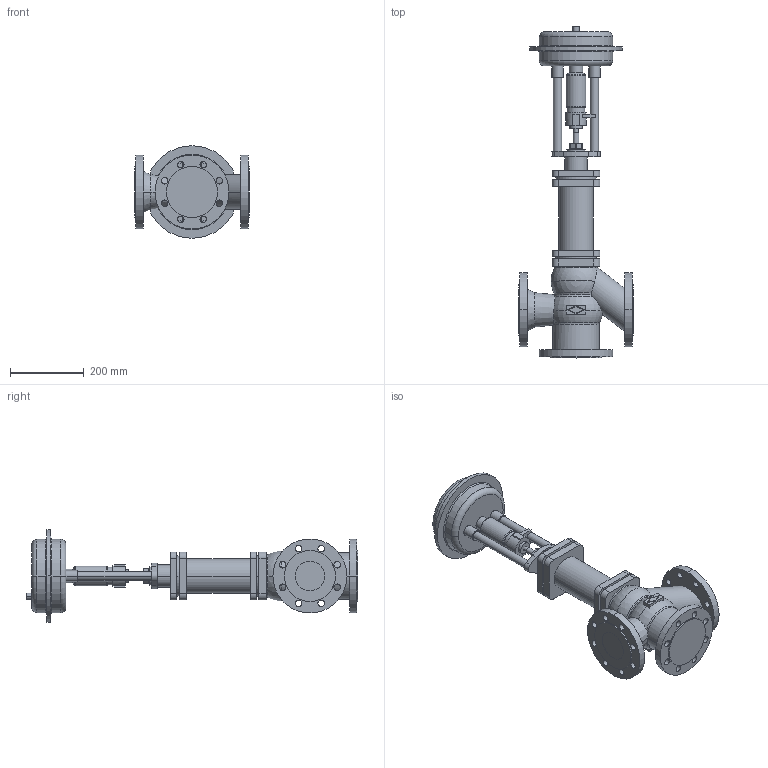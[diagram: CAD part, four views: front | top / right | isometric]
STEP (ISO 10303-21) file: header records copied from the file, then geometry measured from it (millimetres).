
FILE_DESCRIPTION(('OneSpaceDesigner STEP Export'),'2;1');
FILE_NAME('c000000434.stp','2006-09-20T 9:59:52',(''),(''),'OneSpace Designer STEP processor for AP214 (Solid Model)','OneSpace Designer 13.20A 18-Aug-2005 (C) CoCreate Software GmbH','');
FILE_SCHEMA(('AUTOMOTIVE_DESIGN { 1 0 10303 214 1 1 1 1 }'));
Length unit declared in the file: millimetre
Products named in the file (2): 1; 2
Bounding box: 310 x 897.7 x 250 mm (x, y, z)
Volume: 12194114.5 mm3; surface area: 745267.8 mm2
Topology: 2 solids, 2 shells, 277 faces, 692 edges, 449 vertices
Faces by surface type: cylinder 138, plane 101, torus 26, cone 8, sphere 4
Entity records: 7602 total; most frequent: CARTESIAN_POINT 1460, ORIENTED_EDGE 1376, DIRECTION 1130, EDGE_CURVE 688, VERTEX_POINT 449, AXIS2_PLACEMENT_3D 412, EDGE_LOOP 359, VECTOR 306
